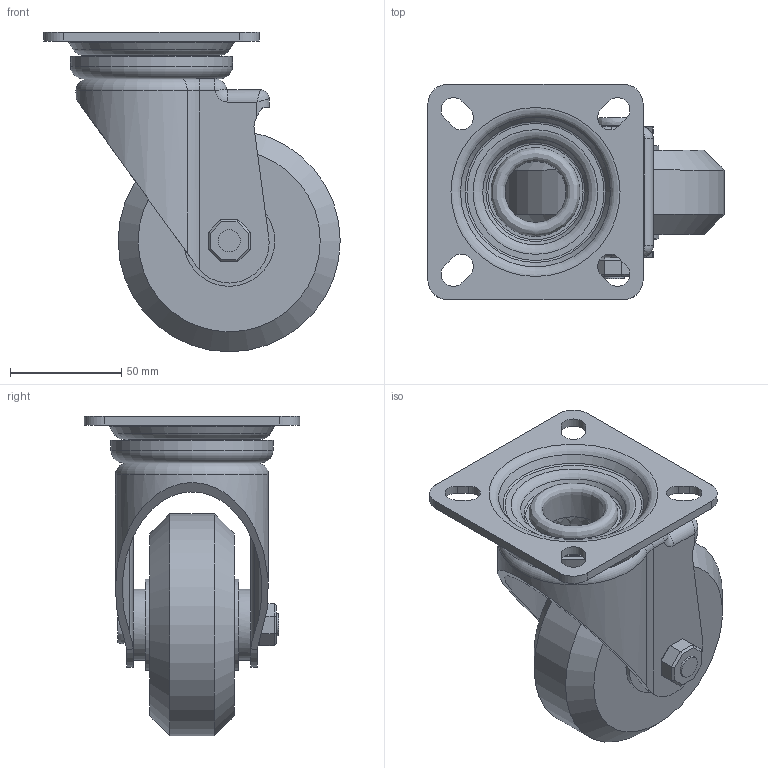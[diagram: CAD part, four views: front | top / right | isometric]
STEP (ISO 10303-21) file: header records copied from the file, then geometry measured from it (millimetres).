
FILE_DESCRIPTION(/* description */ (''),/* implementation_level */ '2;1');
FILE_NAME(/* name */ '25A10_4_F.stp',/* time_stamp */ '2022-08-27T11:28:46+08:00',/* author */ (''),/* organization */ (''),/* preprocessor_version */ 'ST-DEVELOPER v14',/* originating_system */ 'SIEMENS PLM Software NX 8.0',/* authorisation */ '');
FILE_SCHEMA (('AUTOMOTIVE_DESIGN { 1 0 10303 214 3 1 1 1 }'));
Length unit declared in the file: millimetre
Products named in the file (1): 25A10_4_F
Bounding box: 133.5 x 97 x 144 mm (x, y, z)
Volume: 395530.3 mm3; surface area: 94225.7 mm2
Topology: 1 solids, 5 shells, 384 faces, 978 edges, 625 vertices
Faces by surface type: plane 244, cylinder 86, torus 24, cone 11, bspline 9, sphere 6, revolution 4
Full cylindrical faces by diameter (mm): 10 x2, 12 x1, 32 x2, 32.8 x1, 37.5 x1, 41 x2, 43.2 x1, 43.3 x1, 68 x1, 73 x1, 100 x1
Entity records: 11871 total; most frequent: CARTESIAN_POINT 3260, ORIENTED_EDGE 1822, DIRECTION 1614, EDGE_CURVE 911, VERTEX_POINT 607, AXIS2_PLACEMENT_3D 601, EDGE_LOOP 470, LINE 408
